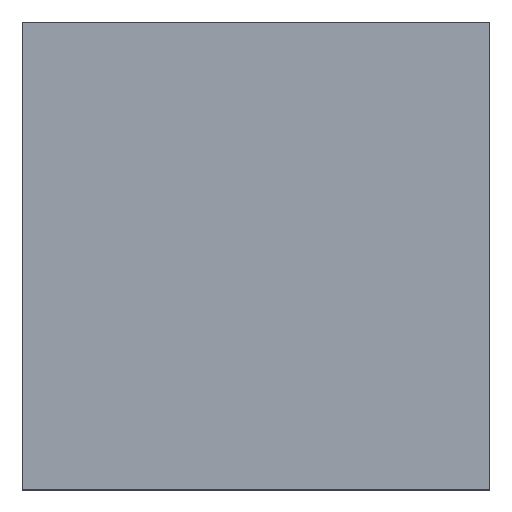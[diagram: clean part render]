
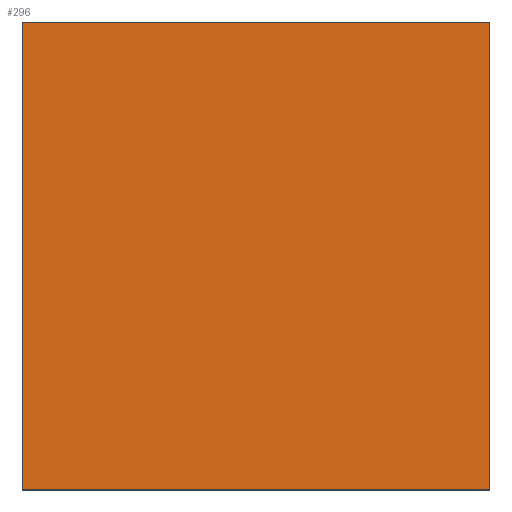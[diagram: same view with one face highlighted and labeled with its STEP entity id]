
A CAD part, top view. The second image highlights one B-rep face of the part: STEP entity #296.
In plain terms, the highlighted planar face has unit normal (0, 0, 1).
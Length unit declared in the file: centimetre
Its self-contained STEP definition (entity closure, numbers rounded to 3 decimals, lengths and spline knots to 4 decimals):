
#31 = DIRECTION ( 'NONE',  ( 1., 0., 0. ) ) ;
#34 = CARTESIAN_POINT ( 'NONE',  ( 0., 0., 1000. ) ) ;
#36 = EDGE_CURVE ( 'NONE', #451, #59, #158, .T. ) ;
#39 = VERTEX_POINT ( 'NONE', #413 ) ;
#52 = CARTESIAN_POINT ( 'NONE',  ( 1000., 1000., 1000. ) ) ;
#58 = LINE ( 'NONE', #89, #506 ) ;
#59 = VERTEX_POINT ( 'NONE', #34 ) ;
#68 = EDGE_LOOP ( 'NONE', ( #243, #321, #352, #195 ) ) ;
#79 = LINE ( 'NONE', #167, #239 ) ;
#89 = CARTESIAN_POINT ( 'NONE',  ( 0., 1000., 1000. ) ) ;
#122 = DIRECTION ( 'NONE',  ( 0., 0., 1. ) ) ;
#158 = LINE ( 'NONE', #368, #367 ) ;
#167 = CARTESIAN_POINT ( 'NONE',  ( 0., 0., 1000. ) ) ;
#195 = ORIENTED_EDGE ( 'NONE', *, *, #499, .T. ) ;
#239 = VECTOR ( 'NONE', #380, 100. ) ;
#242 = VERTEX_POINT ( 'NONE', #469 ) ;
#243 = ORIENTED_EDGE ( 'NONE', *, *, #36, .T. ) ;
#254 = CARTESIAN_POINT ( 'NONE',  ( 0., 0., 1000. ) ) ;
#285 = EDGE_CURVE ( 'NONE', #59, #242, #79, .T. ) ;
#293 = FACE_OUTER_BOUND ( 'NONE', #68, .T. ) ;
#296 = ADVANCED_FACE ( 'NONE', ( #293 ), #366, .T. ) ;
#315 = DIRECTION ( 'NONE',  ( 0., 1., 0. ) ) ;
#321 = ORIENTED_EDGE ( 'NONE', *, *, #285, .T. ) ;
#342 = CARTESIAN_POINT ( 'NONE',  ( 0., 1000., 1000. ) ) ;
#352 = ORIENTED_EDGE ( 'NONE', *, *, #397, .T. ) ;
#366 = PLANE ( 'NONE',  #495 ) ;
#367 = VECTOR ( 'NONE', #550, 100. ) ;
#368 = CARTESIAN_POINT ( 'NONE',  ( 0., 1000., 1000. ) ) ;
#380 = DIRECTION ( 'NONE',  ( 1., 0., 0. ) ) ;
#394 = DIRECTION ( 'NONE',  ( -1., 0., 0. ) ) ;
#397 = EDGE_CURVE ( 'NONE', #242, #39, #512, .T. ) ;
#413 = CARTESIAN_POINT ( 'NONE',  ( 1000., 1000., 1000. ) ) ;
#451 = VERTEX_POINT ( 'NONE', #342 ) ;
#459 = VECTOR ( 'NONE', #315, 100. ) ;
#469 = CARTESIAN_POINT ( 'NONE',  ( 1000., 0., 1000. ) ) ;
#495 = AXIS2_PLACEMENT_3D ( 'NONE', #254, #122, #31 ) ;
#499 = EDGE_CURVE ( 'NONE', #39, #451, #58, .T. ) ;
#506 = VECTOR ( 'NONE', #394, 100. ) ;
#512 = LINE ( 'NONE', #52, #459 ) ;
#550 = DIRECTION ( 'NONE',  ( 0., -1., 0. ) ) ;
